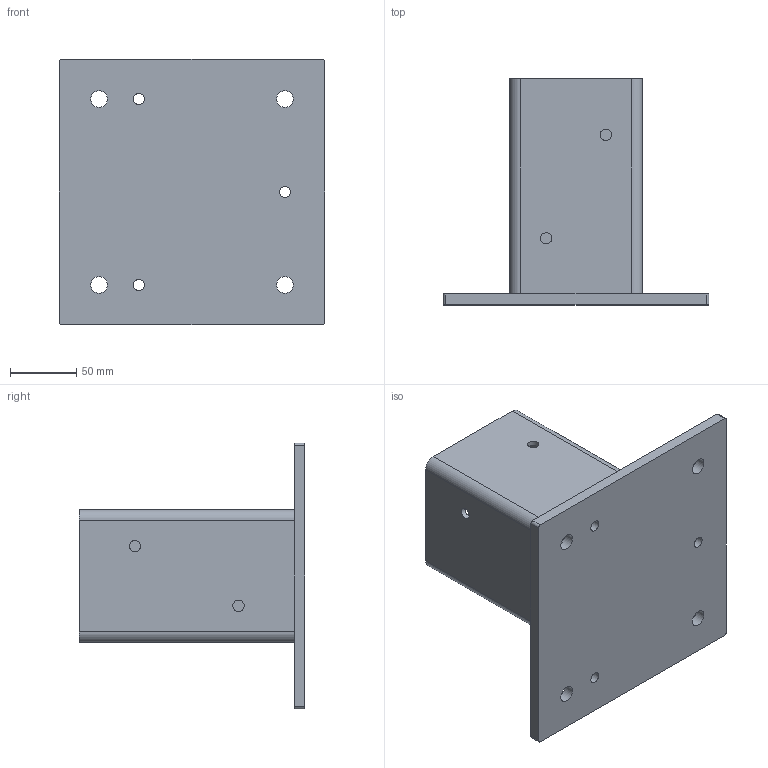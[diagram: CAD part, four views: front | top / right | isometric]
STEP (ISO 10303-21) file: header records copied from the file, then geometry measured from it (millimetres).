
FILE_DESCRIPTION (( 'STEP AP214' ), '1' );
FILE_NAME ('SN04003.step', '2024-12-03T16:31:40', ( '' ), ( '' ), 'SwSTEP 2.0', 'SolidWorks 2023', '' );
FILE_SCHEMA (( 'AUTOMOTIVE_DESIGN' ));
Length unit declared in the file: millimetre
Products named in the file (1): SN04003
Bounding box: 200 x 170 x 200 mm (x, y, z)
Volume: 555024.8 mm3; surface area: 207966.1 mm2
Topology: 1 solids, 1 shells, 43 faces, 117 edges, 78 vertices
Faces by surface type: cylinder 27, plane 16
Full cylindrical faces by diameter (mm): 8.5 x11, 12.5 x4
Entity records: 1393 total; most frequent: DIRECTION 244, CARTESIAN_POINT 224, ORIENTED_EDGE 204, EDGE_CURVE 102, AXIS2_PLACEMENT_3D 98, EDGE_LOOP 90, VERTEX_POINT 78, FACE_OUTER_BOUND 58
